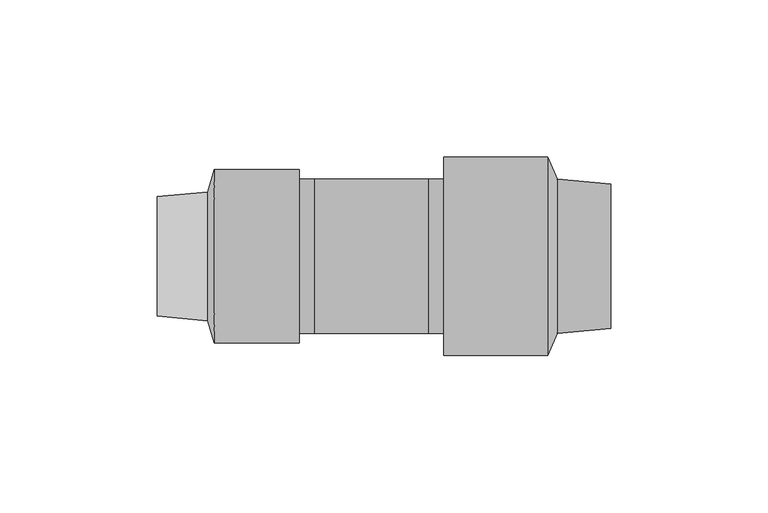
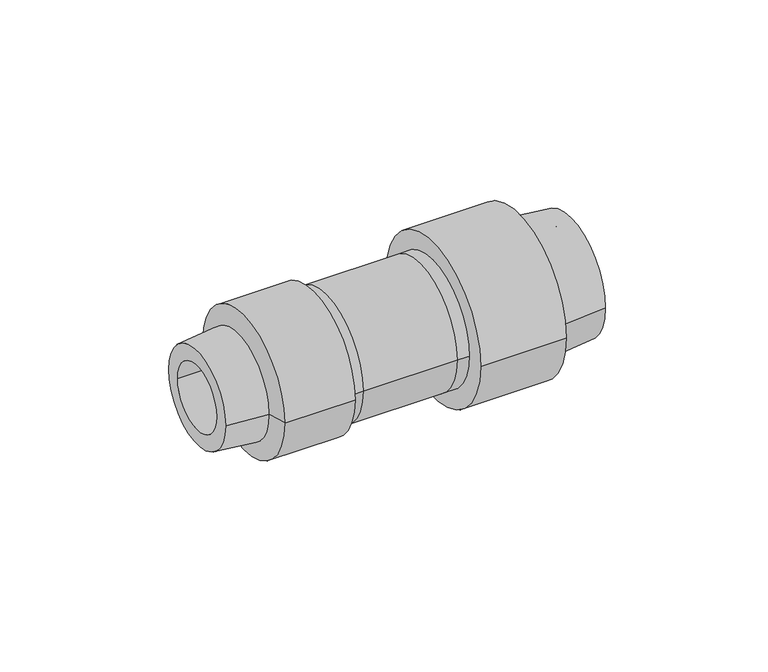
"""IFC4 building model written with IfcOpenShell, lengths in millimetres: pipe fitting geometry, Pipelife - PE - Złącze proste redukcyjne : Pipelife - PE - Złącze proste redukcyjne."""

import ifcopenshell
import ifcopenshell.guid

model = None  # the IFC model being written
_history = None  # IfcOwnerHistory: only IFC2X3 demands one
_inside = {}  # id of a spatial element -> (the spatial element, [elements in it])
_under = {}  # id of a project, library or spatial element -> (it, [spatial elements below it])
_declared = {}  # id of a project -> (the project, [libraries it declares])
_typed = {}  # id of a type object -> (the type object, [elements of that type])
_made_of = {}  # id of a material, layer set ... -> (it, [elements and type objects made of it])


def new_model(schema):
    """Start an empty IFC model of exactly this schema.

    Asked for "IFC4X3", IfcOpenShell would pick the latest addendum, in which some entities
    have other attributes; the version numbers below select the first issue.
    IFC2X3 requires an IfcOwnerHistory on every rooted entity: one is made here for all.
    """
    global model, _history
    if schema == "IFC4X3":
        model = ifcopenshell.file(schema_version=(4, 3, 0, 0))
    else:
        model = ifcopenshell.file(schema=schema)
    _inside.clear()
    _under.clear()
    _declared.clear()
    _typed.clear()
    _made_of.clear()
    _history = None
    if model.schema == "IFC2X3":
        org = make("IfcOrganization", Name="unknown")
        user = make(
            "IfcPersonAndOrganization",
            ThePerson=make("IfcPerson", FamilyName="unknown"),
            TheOrganization=org,
        )
        app = make(
            "IfcApplication",
            ApplicationDeveloper=org,
            Version="unknown",
            ApplicationFullName="unknown",
            ApplicationIdentifier="unknown",
        )
        _history = make(
            "IfcOwnerHistory",
            OwningUser=user,
            OwningApplication=app,
            ChangeAction="ADDED",
            CreationDate=0,
        )
    return model


def make(cls, **values):
    """One entity of the class cls with the attributes given. An attribute that is None is left unset."""
    return model.create_entity(
        cls, **{name: value for name, value in values.items() if value is not None}
    )


def rooted(cls, **values):
    """An entity with a GlobalId (a new one), such as an element, a storey or a relation."""
    return make(cls, GlobalId=ifcopenshell.guid.new(), OwnerHistory=_history, **values)


def si_unit(unit_type, name, prefix=None):
    """IfcSIUnit, for example si_unit("LENGTHUNIT", "METRE", prefix="MILLI")."""
    return make("IfcSIUnit", UnitType=unit_type, Prefix=prefix, Name=name)


def assignment(units):
    """IfcUnitAssignment: the units of a project."""
    return None if units is None else make("IfcUnitAssignment", Units=units)


def point(xyz):
    """IfcCartesianPoint."""
    return None if xyz is None else make("IfcCartesianPoint", Coordinates=xyz)


def direction(xyz):
    """IfcDirection."""
    return None if xyz is None else make("IfcDirection", DirectionRatios=xyz)


def frame(location, z_axis=None, x_axis=None):
    """IfcAxis2Placement3D, a coordinate frame: its origin and axes. An axis left out is left unset."""
    return make(
        "IfcAxis2Placement3D",
        Location=point(location),
        Axis=direction(z_axis),
        RefDirection=direction(x_axis),
    )


def origin():
    """The frame at (0, 0, 0) with its axes left unset."""
    return frame((0.0, 0.0, 0.0))


def place(relative_to, where):
    """IfcLocalPlacement: puts the frame where relative to a parent placement (None: the world)."""
    return make(
        "IfcLocalPlacement", PlacementRelTo=relative_to, RelativePlacement=where
    )


def context(
    kind, dimensions, precision=None, world=None, true_north=None, identifier=None
):
    """IfcGeometricRepresentationContext, for example the 3D "Model" context."""
    return make(
        "IfcGeometricRepresentationContext",
        ContextIdentifier=identifier,
        ContextType=kind,
        CoordinateSpaceDimension=dimensions,
        Precision=precision,
        WorldCoordinateSystem=world,
        TrueNorth=true_north,
    )


def project(units=None, contexts=None):
    """IfcProject with its units and contexts."""
    return rooted(
        "IfcProject",
        Name="project",
        RepresentationContexts=contexts,
        UnitsInContext=assignment(units),
    )


def spatial(cls, under=None, at=None, **own):
    """A site, building, storey or space (cls), placed at a placement, below another one or the project."""
    s = rooted(cls, ObjectPlacement=at, **own)
    if under is not None:
        _under.setdefault(under.id(), (under, []))[1].append(s)
    return s


def polyline(points):
    """IfcPolyline through the points."""
    return make("IfcPolyline", Points=[point(p) for p in points])


def circle_curve(where, radius):
    """IfcCircle in the frame where."""
    return make("IfcCircle", Position=where, Radius=radius)


def shape(context_of_items, identifier, shape_type, items):
    """IfcShapeRepresentation: the items that make up one representation, for example the "Body"."""
    return make(
        "IfcShapeRepresentation",
        ContextOfItems=context_of_items,
        RepresentationIdentifier=identifier,
        RepresentationType=shape_type,
        Items=items,
    )


def source(mapping_origin, context_of_items, identifier, shape_type, items):
    """IfcRepresentationMap: a shape defined once, which mapped items show again and again."""
    return make(
        "IfcRepresentationMap",
        MappingOrigin=mapping_origin,
        MappedRepresentation=shape(context_of_items, identifier, shape_type, items),
    )


def transform(
    local_origin,
    x_axis=None,
    y_axis=None,
    z_axis=None,
    scale=None,
    scale2=None,
    scale3=None,
    uniform=True,
):
    """IfcCartesianTransformationOperator3D, or its non-uniform kind. x_axis, y_axis, z_axis: its Axis1, 2, 3."""
    if uniform:
        return make(
            "IfcCartesianTransformationOperator3D",
            Axis1=direction(x_axis),
            Axis2=direction(y_axis),
            LocalOrigin=point(local_origin),
            Scale=scale,
            Axis3=direction(z_axis),
        )
    return make(
        "IfcCartesianTransformationOperator3DnonUniform",
        Axis1=direction(x_axis),
        Axis2=direction(y_axis),
        LocalOrigin=point(local_origin),
        Scale=scale,
        Axis3=direction(z_axis),
        Scale2=scale2,
        Scale3=scale3,
    )


def mapped(mapping_source, mapping_target):
    """IfcMappedItem: shows the shape of a source again, moved by a transform."""
    return make(
        "IfcMappedItem", MappingSource=mapping_source, MappingTarget=mapping_target
    )


def made_of(thing, what):
    """Note that an element or type object is made of a material, layer set ...; save() writes the relation."""
    if what is not None:
        _made_of.setdefault(what.id(), (what, []))[1].append(thing)
    return thing


def element(
    cls,
    number,
    at=None,
    inside=None,
    cuts=None,
    type_object=None,
    material=None,
    context=None,
    identifier="Body",
    shape_type=None,
    held_by="IfcProductDefinitionShape",
    body=None,
    shapes=None,
    **own,
):
    """One element of the class cls, such as IfcWall. Its Tag is "e" and its number.

    at: its placement. inside: the storey or other place that contains it. cuts: it is an
    opening in that element (IfcRelVoidsElement). A single representation is given by context,
    identifier, shape_type and body (its items); several are given by shapes. held_by: the class
    of the entity that holds the representations. save() writes the other relations.
    """
    e = rooted(cls, Tag="e%d" % number, ObjectPlacement=at, **own)
    if body is not None:
        shapes = [shape(context, identifier, shape_type, body)]
    if shapes is not None:
        e.Representation = make(held_by, Representations=shapes)
    if inside is not None:
        _inside.setdefault(inside.id(), (inside, []))[1].append(e)
    if cuts is not None:
        rooted(
            "IfcRelVoidsElement", RelatingBuildingElement=cuts, RelatedOpeningElement=e
        )
    if type_object is not None:
        _typed.setdefault(type_object.id(), (type_object, []))[1].append(e)
    return made_of(e, material)


def aggregate(whole, parts):
    """IfcRelAggregates: a whole, such as a stair, and the parts it consists of."""
    return rooted("IfcRelAggregates", RelatingObject=whole, RelatedObjects=parts)


def save(model, path):
    """Write the relations noted so far, then the file.

    IfcRelAggregates (storeys below a building ...), IfcRelContainedInSpatialStructure (elements
    in a storey), IfcRelDefinesByType, IfcRelAssociatesMaterial and IfcRelDeclares: one each for
    every whole, place, type object, material and project.
    """
    for whole, parts in _under.values():
        aggregate(whole, parts)
    for where, things in _inside.values():
        rooted(
            "IfcRelContainedInSpatialStructure",
            RelatedElements=things,
            RelatingStructure=where,
        )
    for kind, things in _typed.values():
        rooted("IfcRelDefinesByType", RelatedObjects=things, RelatingType=kind)
    for what, things in _made_of.values():
        rooted("IfcRelAssociatesMaterial", RelatedObjects=things, RelatingMaterial=what)
    for by, libraries in _declared.values():
        rooted("IfcRelDeclares", RelatingContext=by, RelatedDefinitions=libraries)
    model.write(path)


def plane_surface(at):
    """IfcPlane: the flat surface through the origin of the frame at, square to its z axis."""
    return make("IfcPlane", Position=at)


def cylinder_surface(at, radius):
    """IfcCylindricalSurface: all points at the distance radius from the z axis of the frame at."""
    return make("IfcCylindricalSurface", Position=at, Radius=radius)


def revolved_surface(curve, axis_point, axis_direction):
    """IfcSurfaceOfRevolution: the curve turned about the line through axis_point along axis_direction."""
    return make(
        "IfcSurfaceOfRevolution",
        SweptCurve=make("IfcArbitraryOpenProfileDef", ProfileType="CURVE", Curve=curve),
        AxisPosition=make("IfcAxis1Placement", Location=point(axis_point), Axis=direction(axis_direction)),
    )


def advanced_brep(points, edges, surfaces, faces):
    """IfcAdvancedBrep: a solid bounded by faces that lie on surfaces and meet in shared edges.

    An edge is (start, end): straight between two places in points (the first is 0);
    or (start, end, curve); or (start, end, curve, False) where it runs against its curve.
    A face is (place in surfaces, loops), or (place, loops, False) where it looks against
    its surface's normal. A loop lists edges by number (the first is 1), with a minus sign
    where the edge is run from its end to its start. The first loop is the outer one.
    """
    corners = [point(p) for p in points]
    vertices = [make("IfcVertexPoint", VertexGeometry=c) for c in corners]
    made = []
    for start, end, *more in edges:
        made.append(
            make(
                "IfcEdgeCurve",
                EdgeStart=vertices[start],
                EdgeEnd=vertices[end],
                EdgeGeometry=more[0] if more else make("IfcPolyline", Points=[corners[start], corners[end]]),
                SameSense=more[1] if len(more) > 1 else True,
            )
        )
    hull = []
    for where, loops, *sense in faces:
        bounds = []
        for j, loop in enumerate(loops):
            ring = [make("IfcOrientedEdge", EdgeElement=made[abs(k) - 1], Orientation=k > 0) for k in loop]
            bounds.append(
                make(
                    "IfcFaceOuterBound" if j == 0 else "IfcFaceBound",
                    Bound=make("IfcEdgeLoop", EdgeList=ring),
                    Orientation=True,
                )
            )
        hull.append(make("IfcAdvancedFace", Bounds=bounds, FaceSurface=surfaces[where], SameSense=sense[0] if sense else True))
    return make("IfcAdvancedBrep", Outer=make("IfcClosedShell", CfsFaces=hull))


def pipe_fitting_d167652b(model_context):
    return source(origin(), model_context, "Body", "AdvancedBrep", [
        advanced_brep(
        [(22.5, -31.5, 0.0), (22.5, 31.5, 0.0), (22.5, 16.5, 0.0), (22.5, -16.5, 0.0), (55.5, -31.5, 0.0), (55.5, 31.5, 0.0), (75.5, -16.5, 0.0), (75.5, 16.5, 0.0), (58.5, -24.5, 0.0), (58.5, 24.5, 0.0), (75.5, 23.0, 0.0), (75.5, -23.0, 0.0)],
        [
            (0, 1, circle_curve(frame((22.5, 0.0, 0.0), z_axis=(-1.0, 0.0, 0.0), x_axis=(0.0, 1.0, 0.0)), 31.5)),
            (1, 0, circle_curve(frame((22.5, 0.0, 0.0), z_axis=(-1.0, 0.0, 0.0), x_axis=(0.0, 1.0, 0.0)), 31.5)),
            (2, 3, circle_curve(frame((22.5, 0.0, 0.0), z_axis=(1.0, 0.0, 0.0), x_axis=(0.0, 1.0, 0.0)), 16.5)),
            (3, 2, circle_curve(frame((22.5, 0.0, 0.0), z_axis=(1.0, 0.0, 0.0), x_axis=(0.0, 1.0, 0.0)), 16.5)),
            (0, 4),
            (4, 5, circle_curve(frame((55.5, 0.0, 0.0), z_axis=(-1.0, 0.0, 0.0), x_axis=(0.0, 1.0, 0.0)), 31.5)),
            (5, 1),
            (5, 4, circle_curve(frame((55.5, 0.0, 0.0), z_axis=(-1.0, 0.0, 0.0), x_axis=(0.0, 1.0, 0.0)), 31.5)),
            (6, 3),
            (2, 7),
            (7, 6, circle_curve(frame((75.5, 0.0, 0.0), z_axis=(1.0, 0.0, 0.0), x_axis=(0.0, 1.0, 0.0)), 16.5)),
            (6, 7, circle_curve(frame((75.5, 0.0, 0.0), z_axis=(1.0, 0.0, 0.0), x_axis=(0.0, 1.0, 0.0)), 16.5)),
            (8, 4),
            (5, 9),
            (9, 8, circle_curve(frame((58.5, 0.0, 0.0), z_axis=(-1.0, 0.0, 0.0), x_axis=(0.0, 1.0, 0.0)), 24.5)),
            (8, 9, circle_curve(frame((58.5, 0.0, 0.0), z_axis=(-1.0, 0.0, 0.0), x_axis=(0.0, -1.0, 0.0)), 24.5)),
            (10, 11, circle_curve(frame((75.5, 0.0, 0.0), z_axis=(1.0, 0.0, 0.0), x_axis=(0.0, -1.0, 0.0)), 23.0)),
            (11, 10, circle_curve(frame((75.5, 0.0, 0.0), z_axis=(1.0, 0.0, 0.0), x_axis=(0.0, 1.0, 0.0)), 23.0)),
            (11, 8),
            (9, 10),
        ],
        [
            plane_surface(frame((22.5, 0.0, 0.0), z_axis=(-1.0, 0.0, 0.0), x_axis=(0.0, 0.0, 1.0))),
            cylinder_surface(frame((22.5, 0.0, 0.0), z_axis=(-1.0, 0.0, 0.0), x_axis=(0.0, 1.0, 0.0)), 31.5),
            revolved_surface(polyline([(22.5, 16.5, 0.0), (75.5, 16.5, 0.0)]), (3.5, 0.0, 0.0), (-1.0, 0.0, 0.0)),
            revolved_surface(polyline([(58.5, -24.5, 0.0), (55.5, -31.5, 0.0)]), (69.0, 0.0, 0.0), (-1.0, 0.0, 0.0)),
            plane_surface(frame((75.5, 0.0, 0.0), z_axis=(1.0, 0.0, 0.0), x_axis=(0.0, 0.0, -1.0))),
            revolved_surface(polyline([(75.5, -23.00000000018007, 0.0), (58.5, -24.5, 0.0)]), (336.1666667, 0.0, 0.0), (-1.0, 0.0, 0.0)),
            revolved_surface(polyline([(75.5, 23.00000000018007, 0.0), (58.5, 24.5, 0.0)]), (336.1666667, 0.0, 0.0), (-1.0, 0.0, 0.0)),
        ],
        [
            (0, [[1, 2], [3, 4]]),
            (1, [[-1, 5, 6, 7]]),
            (1, [[-2, -7, 8, -5]]),
            (2, [[9, -3, 10, 11]]),
            (2, [[-9, 12, -10, -4]]),
            (3, [[13, -8, 14, 15]]),
            (3, [[-13, 16, -14, -6]]),
            (4, [[17, 18], [-11, -12]]),
            (5, [[-18, 19, -15, 20]]),
            (6, [[-17, -20, -16, -19]]),
        ],
    ),
        advanced_brep(
        [(-18.5, -24.5, 0.0), (17.5, -24.5, 0.0), (17.5, 24.5, 0.0), (-18.5, 24.5, 0.0), (-3.5, -13.0, 0.0), (-3.5, 13.0, 0.0), (-23.5, -13.0, 0.0), (-23.5, 13.0, 0.0), (3.5, -16.5, 0.0), (3.5, 16.5, 0.0), (17.5, 16.5, 0.0), (17.5, -16.5, 0.0), (-23.5, -24.5, 0.0), (-23.5, 24.5, 0.0), (22.5, -24.5, 0.0), (22.5, 24.5, 0.0), (22.5, -16.5, 0.0), (22.5, 16.5, 0.0)],
        [
            (0, 1),
            (1, 2, circle_curve(frame((17.5, 0.0, 0.0), z_axis=(-1.0, 0.0, 0.0), x_axis=(0.0, 1.0, 0.0)), 24.5)),
            (2, 3),
            (3, 0, circle_curve(frame((-18.5, 0.0, 0.0), z_axis=(1.0, 0.0, 0.0), x_axis=(0.0, 1.0, 0.0)), 24.5)),
            (0, 3, circle_curve(frame((-18.5, 0.0, 0.0), z_axis=(1.0, 0.0, 0.0), x_axis=(0.0, 1.0, 0.0)), 24.5)),
            (2, 1, circle_curve(frame((17.5, 0.0, 0.0), z_axis=(-1.0, 0.0, 0.0), x_axis=(0.0, 1.0, 0.0)), 24.5)),
            (4, 5, circle_curve(frame((-3.5, 0.0, 0.0), z_axis=(-1.0, 0.0, 0.0), x_axis=(0.0, 1.0, 0.0)), 13.0)),
            (5, 4, circle_curve(frame((-3.5, 0.0, 0.0), z_axis=(-1.0, 0.0, 0.0), x_axis=(0.0, 1.0, 0.0)), 13.0)),
            (4, 6),
            (6, 7, circle_curve(frame((-23.5, 0.0, 0.0), z_axis=(-1.0, 0.0, 0.0), x_axis=(0.0, 1.0, 0.0)), 13.0)),
            (7, 5),
            (7, 6, circle_curve(frame((-23.5, 0.0, 0.0), z_axis=(-1.0, 0.0, 0.0), x_axis=(0.0, 1.0, 0.0)), 13.0)),
            (8, 9, circle_curve(frame((3.5, 0.0, 0.0), z_axis=(1.0, 0.0, 0.0), x_axis=(0.0, 1.0, 0.0)), 16.5)),
            (9, 8, circle_curve(frame((3.5, 0.0, 0.0), z_axis=(1.0, 0.0, 0.0), x_axis=(0.0, 1.0, 0.0)), 16.5)),
            (9, 10),
            (10, 11, circle_curve(frame((17.5, 0.0, 0.0), z_axis=(1.0, 0.0, 0.0), x_axis=(0.0, 1.0, 0.0)), 16.5)),
            (11, 8),
            (11, 10, circle_curve(frame((17.5, 0.0, 0.0), z_axis=(1.0, 0.0, 0.0), x_axis=(0.0, 1.0, 0.0)), 16.5)),
            (12, 13, circle_curve(frame((-23.5, 0.0, 0.0), z_axis=(-1.0, 0.0, 0.0), x_axis=(0.0, 1.0, 0.0)), 24.5)),
            (13, 12, circle_curve(frame((-23.5, 0.0, 0.0), z_axis=(-1.0, 0.0, 0.0), x_axis=(0.0, 1.0, 0.0)), 24.5)),
            (12, 0),
            (3, 13),
            (14, 15, circle_curve(frame((22.5, 0.0, 0.0), z_axis=(1.0, 0.0, 0.0), x_axis=(0.0, 1.0, 0.0)), 24.5)),
            (15, 14, circle_curve(frame((22.5, 0.0, 0.0), z_axis=(1.0, 0.0, 0.0), x_axis=(0.0, 1.0, 0.0)), 24.5)),
            (16, 17, circle_curve(frame((22.5, 0.0, 0.0), z_axis=(-1.0, 0.0, 0.0), x_axis=(0.0, 1.0, 0.0)), 16.5)),
            (17, 16, circle_curve(frame((22.5, 0.0, 0.0), z_axis=(-1.0, 0.0, 0.0), x_axis=(0.0, 1.0, 0.0)), 16.5)),
            (15, 2),
            (1, 14),
            (16, 11),
            (10, 17),
        ],
        [
            cylinder_surface(frame((-18.5, 0.0, 0.0), z_axis=(-1.0, 0.0, 0.0), x_axis=(0.0, 1.0, 0.0)), 24.5),
            plane_surface(frame((-3.5, 0.0, 0.0), z_axis=(-1.0, 0.0, 0.0), x_axis=(0.0, 0.0, 1.0))),
            revolved_surface(polyline([(-23.5, 13.0, 0.0), (-3.5, 13.0, 0.0)]), (-68.5, 0.0, 0.0), (-1.0, 0.0, 0.0)),
            plane_surface(frame((3.5, 0.0, 0.0), z_axis=(1.0, 0.0, 0.0), x_axis=(0.0, 0.0, 1.0))),
            revolved_surface(polyline([(3.5, 16.5, 0.0), (17.5, 16.5, 0.0)]), (3.5, 0.0, 0.0), (-1.0, 0.0, 0.0)),
            plane_surface(frame((-23.5, 0.0, 0.0), z_axis=(-1.0, 0.0, 0.0), x_axis=(0.0, 0.0, 1.0))),
            cylinder_surface(frame((-23.5, 0.0, 0.0), z_axis=(-1.0, 0.0, 0.0), x_axis=(0.0, 1.0, 0.0)), 24.5),
            plane_surface(frame((22.5, 0.0, 0.0), z_axis=(1.0, 0.0, 0.0), x_axis=(0.0, 0.0, 1.0))),
            cylinder_surface(frame((17.5, 0.0, 0.0), z_axis=(-1.0, 0.0, 0.0), x_axis=(0.0, 1.0, 0.0)), 24.5),
            revolved_surface(polyline([(17.5, 16.5, 0.0), (22.5, 16.5, 0.0)]), (3.5, 0.0, 0.0), (-1.0, 0.0, 0.0)),
        ],
        [
            (0, [[1, 2, 3, 4]]),
            (0, [[-1, 5, -3, 6]]),
            (1, [[7, 8]]),
            (2, [[-7, 9, 10, 11]]),
            (2, [[-8, -11, 12, -9]]),
            (3, [[13, 14]]),
            (4, [[-14, 15, 16, 17]]),
            (4, [[-13, -17, 18, -15]]),
            (5, [[19, 20], [-10, -12]]),
            (6, [[-19, 21, -4, 22]]),
            (6, [[-20, -22, -5, -21]]),
            (7, [[23, 24], [25, 26]]),
            (8, [[-24, 27, -2, 28]]),
            (8, [[-23, -28, -6, -27]]),
            (9, [[29, -16, 30, -25]]),
            (9, [[-29, -26, -30, -18]]),
        ],
    ),
        advanced_brep(
        [(-23.5, -27.5, 0.0), (-23.5, 27.5, 0.0), (-23.5, -13.0, 0.0), (-23.5, 13.0, 0.0), (-50.5, 27.5, 0.0), (-50.5, -27.5, 0.0), (-68.5, -13.0, 0.0), (-68.5, 13.0, 0.0), (-52.5, 20.5, 0.0), (-52.5, -20.5, 0.0), (-68.5, -19.0, 0.0), (-68.5, 19.0, 0.0)],
        [
            (0, 1, circle_curve(frame((-23.5, 0.0, 0.0), z_axis=(1.0, 0.0, 0.0), x_axis=(0.0, 1.0, 0.0)), 27.5)),
            (1, 0, circle_curve(frame((-23.5, 0.0, 0.0), z_axis=(1.0, 0.0, 0.0), x_axis=(0.0, 1.0, 0.0)), 27.5)),
            (2, 3, circle_curve(frame((-23.5, 0.0, 0.0), z_axis=(-1.0, 0.0, 0.0), x_axis=(0.0, 1.0, 0.0)), 13.0)),
            (3, 2, circle_curve(frame((-23.5, 0.0, 0.0), z_axis=(-1.0, 0.0, 0.0), x_axis=(0.0, 1.0, 0.0)), 13.0)),
            (1, 4),
            (4, 5, circle_curve(frame((-50.5, 0.0, 0.0), z_axis=(1.0, 0.0, 0.0), x_axis=(0.0, 1.0, 0.0)), 27.5)),
            (5, 0),
            (5, 4, circle_curve(frame((-50.5, 0.0, 0.0), z_axis=(1.0, 0.0, 0.0), x_axis=(0.0, 1.0, 0.0)), 27.5)),
            (2, 6),
            (6, 7, circle_curve(frame((-68.5, 0.0, 0.0), z_axis=(-1.0, 0.0, 0.0), x_axis=(0.0, 1.0, 0.0)), 13.0)),
            (7, 3),
            (7, 6, circle_curve(frame((-68.5, 0.0, 0.0), z_axis=(-1.0, 0.0, 0.0), x_axis=(0.0, 1.0, 0.0)), 13.0)),
            (8, 4),
            (5, 9),
            (9, 8, circle_curve(frame((-52.5, 0.0, 0.0), z_axis=(1.0, 0.0, 0.0), x_axis=(0.0, -1.0, 0.0)), 20.5)),
            (8, 9, circle_curve(frame((-52.5, 0.0, 0.0), z_axis=(1.0, 0.0, 0.0), x_axis=(0.0, 1.0, 0.0)), 20.5)),
            (10, 11, circle_curve(frame((-68.5, 0.0, 0.0), z_axis=(-1.0, 0.0, 0.0), x_axis=(0.0, 1.0, 0.0)), 19.0)),
            (11, 10, circle_curve(frame((-68.5, 0.0, 0.0), z_axis=(-1.0, 0.0, 0.0), x_axis=(0.0, -1.0, 0.0)), 19.0)),
            (11, 8),
            (9, 10),
        ],
        [
            plane_surface(frame((-23.5, 0.0, 0.0), z_axis=(1.0, 0.0, 0.0), x_axis=(0.0, 0.0, 1.0))),
            cylinder_surface(frame((-50.5, 0.0, 0.0), z_axis=(-1.0, 0.0, 0.0), x_axis=(0.0, 1.0, 0.0)), 27.5),
            revolved_surface(polyline([(-68.5, 13.0, 0.0), (-23.5, 13.0, 0.0)]), (-68.5, 0.0, 0.0), (-1.0, 0.0, 0.0)),
            revolved_surface(polyline([(-52.5, 20.500000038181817, 0.0), (-50.5, 27.5, 0.0)]), (-58.3571429, 0.0, 0.0), (1.0, 0.0, 0.0)),
            plane_surface(frame((-68.5, 0.0, 0.0), z_axis=(-1.0, 0.0, 0.0), x_axis=(0.0, 0.0, -1.0))),
            revolved_surface(polyline([(-68.5, 19.00000000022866, 0.0), (-52.5, 20.5, 0.0)]), (-271.1666667, 0.0, 0.0), (1.0, 0.0, 0.0)),
            revolved_surface(polyline([(-68.5, -19.00000000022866, 0.0), (-52.5, -20.5, 0.0)]), (-271.1666667, 0.0, 0.0), (1.0, 0.0, 0.0)),
        ],
        [
            (0, [[1, 2], [3, 4]]),
            (1, [[-2, 5, 6, 7]]),
            (1, [[-1, -7, 8, -5]]),
            (2, [[9, 10, 11, -3]]),
            (2, [[-9, -4, -11, 12]]),
            (3, [[13, -8, 14, 15]]),
            (3, [[-13, 16, -14, -6]]),
            (4, [[17, 18], [-10, -12]]),
            (5, [[-18, 19, -15, 20]]),
            (6, [[-17, -20, -16, -19]]),
        ],
    ),
    ])


if __name__ == "__main__":
    model = new_model("IFC4")
    model_context = context("Model", 3, world=origin())
    ifc_project = project(units=[si_unit("LENGTHUNIT", "METRE", prefix="MILLI")], contexts=[model_context])
    site = spatial("IfcSite", under=ifc_project)
    building = spatial("IfcBuilding", under=site)
    placement = place(None, origin())
    pipe_fitting_shape = pipe_fitting_d167652b(model_context)
    element("IfcPipeFitting", 1, ObjectType="Pipelife - PE - Złącze proste redukcyjne : Pipelife - PE - Złącze proste redukcyjne", at=placement, inside=building, context=model_context, shape_type="MappedRepresentation", body=[
        mapped(pipe_fitting_shape, transform((0.0, 0.0, 0.0), x_axis=(1.0, 0.0, 0.0), y_axis=(0.0, 1.0, 0.0), z_axis=(0.0, 0.0, 1.0))),
    ])
    save(model, "model.ifc")
